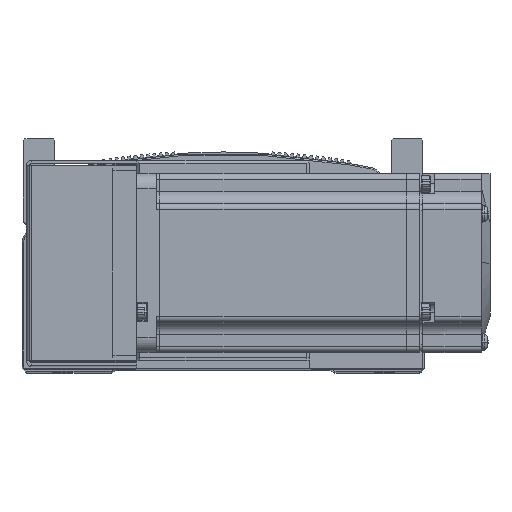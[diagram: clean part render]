
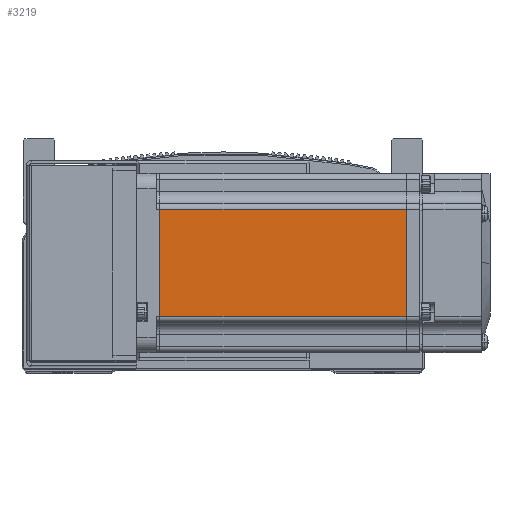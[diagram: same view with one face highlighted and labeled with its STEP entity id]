
A CAD part, top view. The second image highlights one B-rep face of the part: STEP entity #3219.
In plain terms, the highlighted planar face has unit normal (0, 0, 1) as drawn and (0, 0, -1) by its records, which use the part's own axes.
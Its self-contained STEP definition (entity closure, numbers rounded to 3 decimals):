
#945 = EDGE_LOOP ( 'NONE', ( #55537, #55563, #55533, #55596 ) ) ;
#3219 = ADVANCED_FACE ( 'NONE', ( #34249 ), #61151, .T. ) ;
#20269 = EDGE_CURVE ( 'NONE', #41957, #41903, #24869, .T. ) ;
#20276 = EDGE_CURVE ( 'NONE', #41872, #41957, #24872, .T. ) ;
#20296 = EDGE_CURVE ( 'NONE', #41952, #41872, #24925, .T. ) ;
#20385 = EDGE_CURVE ( 'NONE', #41903, #41952, #23599, .T. ) ;
#23533 = AXIS2_PLACEMENT_3D ( 'NONE', #61160, #61140, #61121 ) ;
#23587 = VECTOR ( 'NONE', #40813, 1000. ) ;
#23599 = LINE ( 'NONE', #40808, #23587 ) ;
#24842 = VECTOR ( 'NONE', #40611, 1000. ) ;
#24869 = LINE ( 'NONE', #40612, #24842 ) ;
#24872 = LINE ( 'NONE', #40601, #24874 ) ;
#24874 = VECTOR ( 'NONE', #40582, 1000. ) ;
#24903 = VECTOR ( 'NONE', #40634, 1000. ) ;
#24925 = LINE ( 'NONE', #40618, #24903 ) ;
#30127 = CARTESIAN_POINT ( 'NONE',  ( -7.75, 18., -30. ) ) ;
#30145 = CARTESIAN_POINT ( 'NONE',  ( -90.45, 18., -30. ) ) ;
#30151 = CARTESIAN_POINT ( 'NONE',  ( -7.75, -18., -30. ) ) ;
#30206 = CARTESIAN_POINT ( 'NONE',  ( -90.45, -18., -30. ) ) ;
#34249 = FACE_OUTER_BOUND ( 'NONE', #945, .T. ) ;
#40582 = DIRECTION ( 'NONE',  ( -1., 0., 0. ) ) ;
#40601 = CARTESIAN_POINT ( 'NONE',  ( -6.5, -18., -30. ) ) ;
#40611 = DIRECTION ( 'NONE',  ( 0., 1., 0. ) ) ;
#40612 = CARTESIAN_POINT ( 'NONE',  ( -90.45, 25., -30. ) ) ;
#40618 = CARTESIAN_POINT ( 'NONE',  ( -7.75, 25., -30. ) ) ;
#40634 = DIRECTION ( 'NONE',  ( 0., -1., 0. ) ) ;
#40808 = CARTESIAN_POINT ( 'NONE',  ( -6.5, 18., -30. ) ) ;
#40813 = DIRECTION ( 'NONE',  ( 1., 0., 0. ) ) ;
#41872 = VERTEX_POINT ( 'NONE', #30151 ) ;
#41903 = VERTEX_POINT ( 'NONE', #30145 ) ;
#41952 = VERTEX_POINT ( 'NONE', #30127 ) ;
#41957 = VERTEX_POINT ( 'NONE', #30206 ) ;
#55533 = ORIENTED_EDGE ( 'NONE', *, *, #20269, .T. ) ;
#55537 = ORIENTED_EDGE ( 'NONE', *, *, #20296, .T. ) ;
#55563 = ORIENTED_EDGE ( 'NONE', *, *, #20276, .T. ) ;
#55596 = ORIENTED_EDGE ( 'NONE', *, *, #20385, .T. ) ;
#61121 = DIRECTION ( 'NONE',  ( -1., 0., 0. ) ) ;
#61140 = DIRECTION ( 'NONE',  ( 0., 0., -1. ) ) ;
#61151 = PLANE ( 'NONE',  #23533 ) ;
#61160 = CARTESIAN_POINT ( 'NONE',  ( -6.5, 25., -30. ) ) ;
